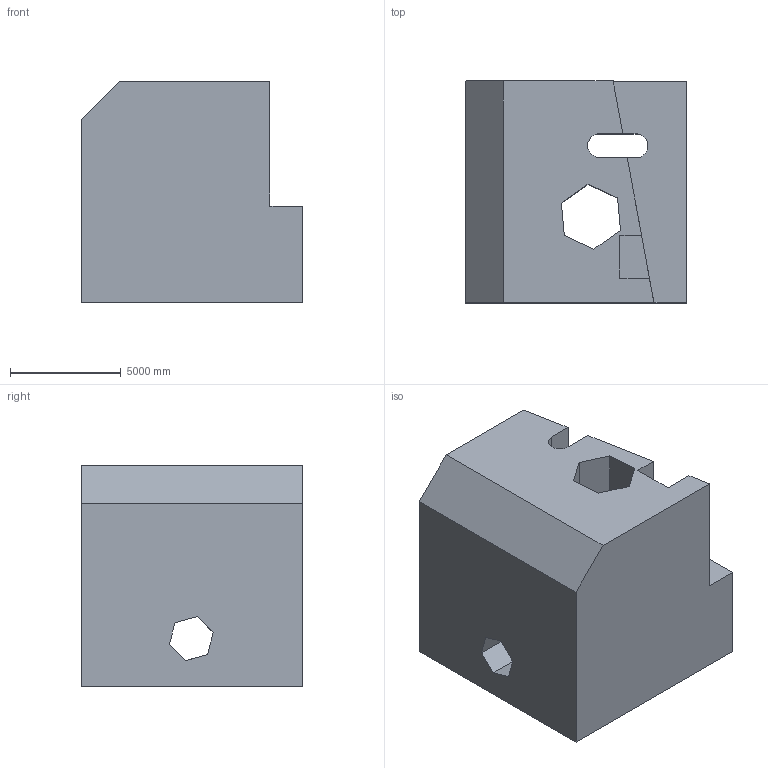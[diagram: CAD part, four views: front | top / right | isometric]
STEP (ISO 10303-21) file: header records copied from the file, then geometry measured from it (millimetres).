
FILE_DESCRIPTION (( 'STEP AP203' ), '1' );
FILE_NAME ('1593.STEP', '2022-08-25T15:13:19', ( 'user' ), ( '' ), 'SwSTEP 2.0', 'SolidWorks 2021', '' );
FILE_SCHEMA (( 'CONFIG_CONTROL_DESIGN' ));
Length unit declared in the file: centimetre
Products named in the file (1): 1593
Bounding box: 10000 x 10000 x 10000 mm (x, y, z)
Volume: 744837260809.3 mm3; surface area: 723199807.9 mm2
Topology: 1 solids, 1 shells, 36 faces, 111 edges, 74 vertices
Faces by surface type: plane 33, cylinder 3
Entity records: 1314 total; most frequent: ORIENTED_EDGE 222, CARTESIAN_POINT 222, DIRECTION 191, EDGE_CURVE 111, VECTOR 105, LINE 105, VERTEX_POINT 74, AXIS2_PLACEMENT_3D 43
